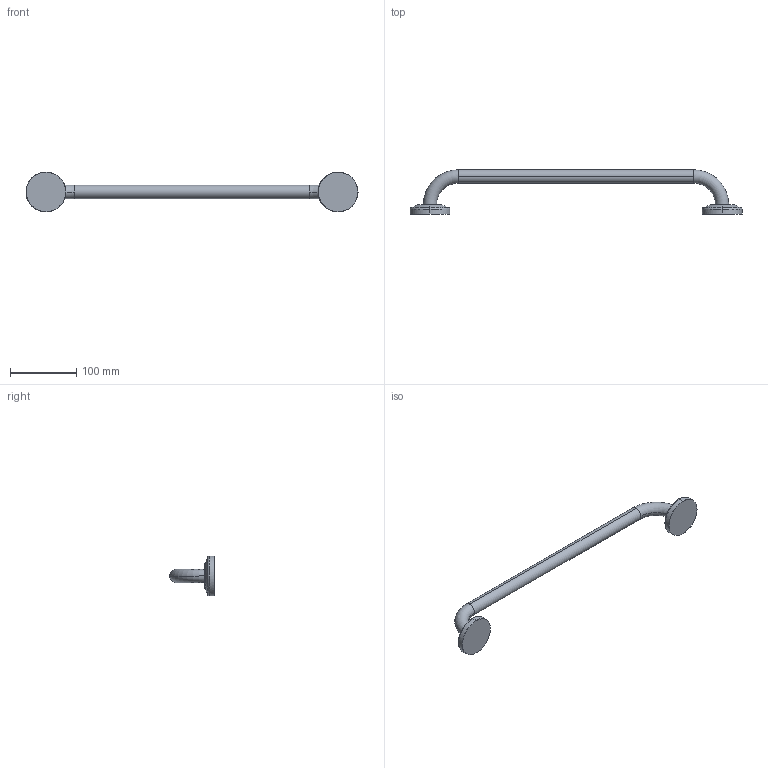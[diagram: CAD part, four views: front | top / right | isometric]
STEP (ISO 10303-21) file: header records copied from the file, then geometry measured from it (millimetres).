
FILE_DESCRIPTION(('THIS FILE CONTAINS SOME STEP INSTANCES'),'1');
FILE_NAME('sta_031.stp','2015-12-01T11:44:26',('UNDEFINED'),('UNDEFINED'),'T-FLEX CAD STEP converter','T-FLEX CAD','');
FILE_SCHEMA(('CONFIG_CONTROL_DESIGN'));
Length unit declared in the file: metre
Products named in the file (1): 3D 鐨飹懤艜_21
Bounding box: 500 x 67 x 60 mm (x, y, z)
Volume: 223163.3 mm3; surface area: 44940.1 mm2
Topology: 1 solids, 1 shells, 34 faces, 74 edges, 44 vertices
Faces by surface type: torus 12, cone 8, cylinder 6, bspline 4, plane 4
Entity records: 2700 total; most frequent: CARTESIAN_POINT 2071, ORIENTED_EDGE 148, DIRECTION 102, EDGE_CURVE 74, AXIS2_PLACEMENT_3D 44, VERTEX_POINT 44, EDGE_LOOP 36, ADVANCED_FACE 34
